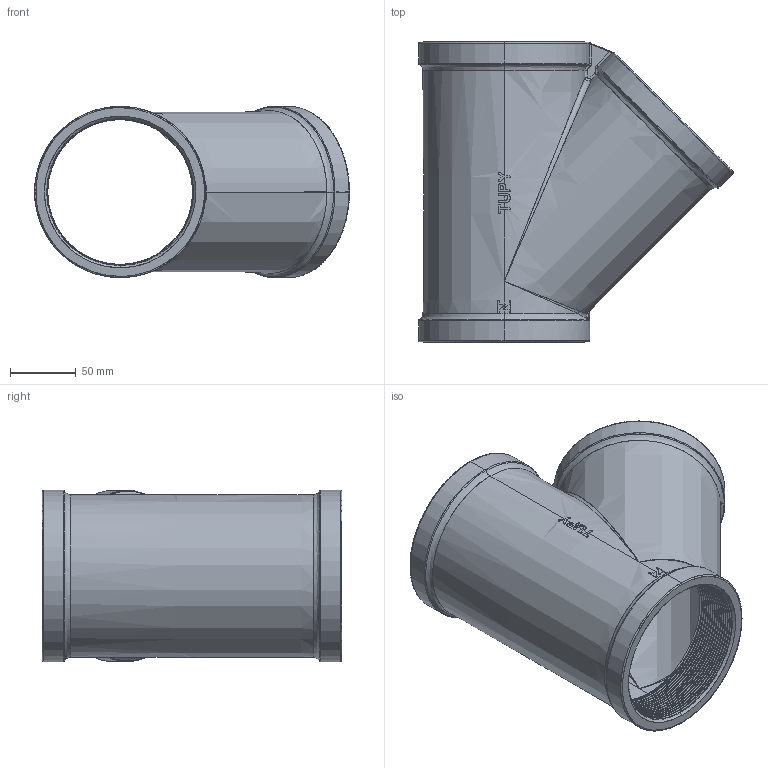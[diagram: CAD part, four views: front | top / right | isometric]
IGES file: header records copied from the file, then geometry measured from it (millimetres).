
Start section: SolidWorks IGES file using analytic representation for surfaces
Global section: file name: C:\Users\Joel Rosa\Desktop\Tubulação\12-54-XXX\12-54-014.IGS; native system: SolidWorks 2011; preprocessor: SolidWorks 2011; author: Joel Rosa; date: 121213.024250; units: millimetre
Bounding box: 239.41 x 228 x 130.2 mm (x, y, z)
Surface area: 261900 mm2 (no closed solid volume)
Topology: 0 solids, 0 shells, 659 faces, 4812 edges, 4805 vertices
Faces by surface type: bspline 422, revolution 237
